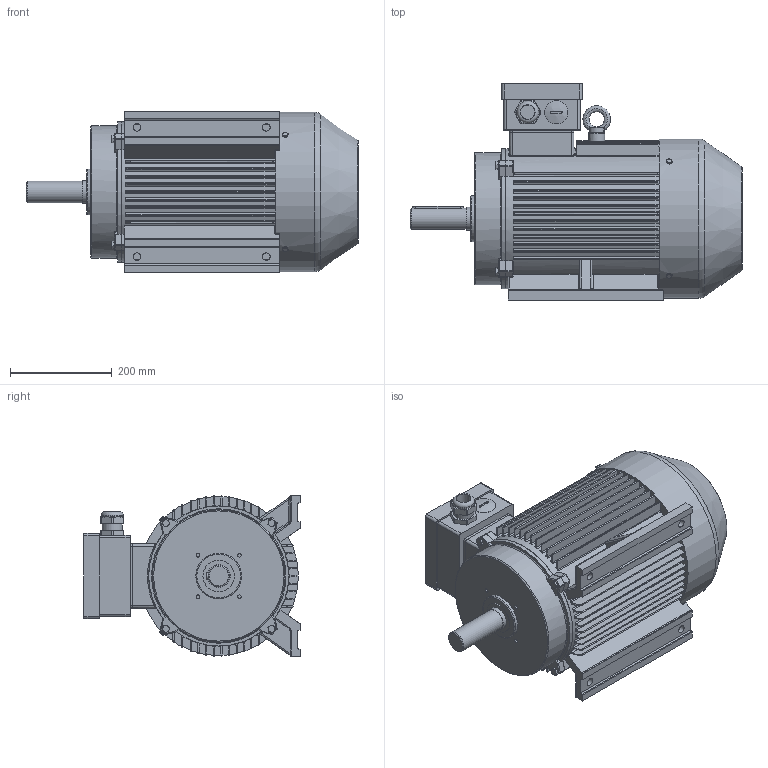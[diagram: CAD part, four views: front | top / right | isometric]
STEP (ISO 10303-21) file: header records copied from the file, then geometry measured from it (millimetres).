
FILE_DESCRIPTION(/* description */ ('01-IP55-Cast Iron-IE4-160L B3-6-8'),/* implementation_level */ '2;1');
FILE_NAME(/* name */ 'D:\02 - Onedrive\OneDrive\01 - Werkbestanden\121 - OMEC\1408 - MOTOREN CAD BIBLIOTHEEK\1408 - Gereed\OMT1-IE4\01-IP55-Cast Iron-IE4-160L B3-6-8.stp',/* time_stamp */ '2017-10-12T15:54:23+02:00',/* author */ ('freek'),/* organization */ (''),/* preprocessor_version */ 'ST-DEVELOPER v16.1',/* originating_system */ 'Autodesk Inventor 2016',/* authorisation */ '');
FILE_SCHEMA (('AUTOMOTIVE_DESIGN { 1 0 10303 214 3 1 1 }'));
Products named in the file (1): 1408-717
Bounding box: 652.1 x 425 x 315 mm (x, y, z)
Volume: 36788512.9 mm3; surface area: 1482117.3 mm2
Topology: 5 solids, 9 shells, 1691 faces, 4260 edges, 2771 vertices
Faces by surface type: plane 1175, cylinder 316, cone 145, bspline 20, torus 18, sphere 17
Full cylindrical faces by diameter (mm): 5.459 x4, 6 x4, 7 x4, 7.323 x4, 8 x13, 8.7 x4, 11.4 x4, 15 x4, 28 x1, 32 x1, 40 x1, 42 x1, 43 x1, 45 x1, 46 x1, 61.8 x1, 62 x1, 90 x1, 260 x1, 275 x1, 313 x1
Entity records: 54625 total; most frequent: CARTESIAN_POINT 13006, ORIENTED_EDGE 8328, DIRECTION 7902, EDGE_CURVE 4156, LINE 2928, VECTOR 2928, VERTEX_POINT 2752, AXIS2_PLACEMENT_3D 2487
